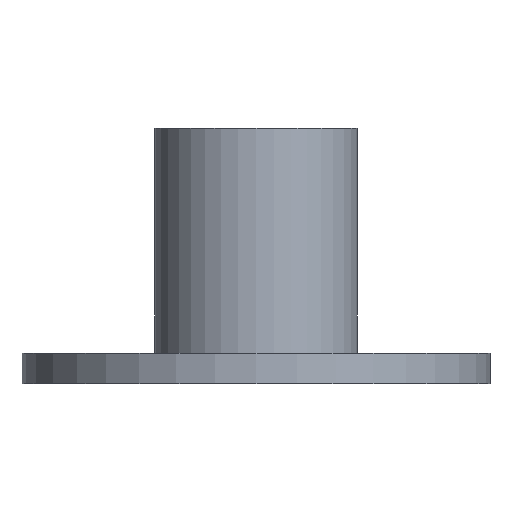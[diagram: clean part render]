
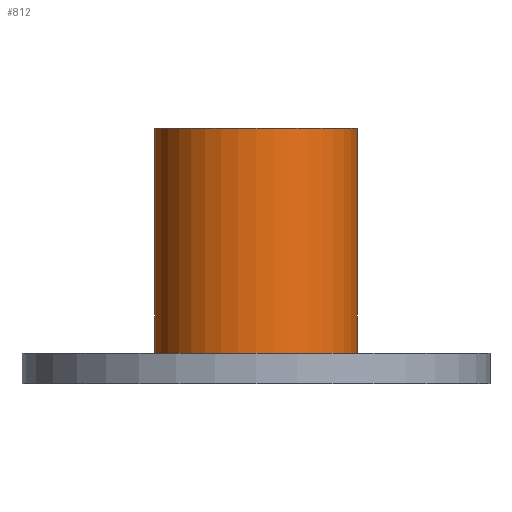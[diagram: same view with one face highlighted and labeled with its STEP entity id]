
A CAD part, front view. The second image highlights one B-rep face of the part: STEP entity #812.
In plain terms, the highlighted cylindrical face has radius 40.8 mm (diameter 81.6 mm), a full revolution.
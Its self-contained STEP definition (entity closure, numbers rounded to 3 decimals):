
#338 = PLANE('',#339);
#339 = AXIS2_PLACEMENT_3D('',#340,#341,#342);
#340 = CARTESIAN_POINT('',(0.,0.,12.3));
#341 = DIRECTION('',(0.,0.,1.));
#342 = DIRECTION('',(1.,0.,-0.));
#587 = PLANE('',#588);
#588 = AXIS2_PLACEMENT_3D('',#589,#590,#591);
#589 = CARTESIAN_POINT('',(0.,0.,103.));
#590 = DIRECTION('',(0.,0.,1.));
#591 = DIRECTION('',(1.,0.,-0.));
#748 = EDGE_CURVE('',#749,#749,#751,.T.);
#749 = VERTEX_POINT('',#750);
#750 = CARTESIAN_POINT('',(40.8,0.,12.3));
#751 = SURFACE_CURVE('',#752,(#757,#764),.PCURVE_S1.);
#752 = CIRCLE('',#753,40.8);
#753 = AXIS2_PLACEMENT_3D('',#754,#755,#756);
#754 = CARTESIAN_POINT('',(0.,0.,12.3));
#755 = DIRECTION('',(0.,0.,1.));
#756 = DIRECTION('',(1.,0.,-0.));
#757 = PCURVE('',#338,#758);
#758 = DEFINITIONAL_REPRESENTATION('',(#759),#763);
#759 = CIRCLE('',#760,40.8);
#760 = AXIS2_PLACEMENT_2D('',#761,#762);
#761 = CARTESIAN_POINT('',(0.,0.));
#762 = DIRECTION('',(1.,0.));
#763 = ( GEOMETRIC_REPRESENTATION_CONTEXT(2) 
PARAMETRIC_REPRESENTATION_CONTEXT() REPRESENTATION_CONTEXT('2D SPACE',''
  ) );
#764 = PCURVE('',#765,#770);
#765 = CYLINDRICAL_SURFACE('',#766,40.8);
#766 = AXIS2_PLACEMENT_3D('',#767,#768,#769);
#767 = CARTESIAN_POINT('',(0.,0.,12.3));
#768 = DIRECTION('',(0.,0.,1.));
#769 = DIRECTION('',(1.,0.,-0.));
#770 = DEFINITIONAL_REPRESENTATION('',(#771),#775);
#771 = LINE('',#772,#773);
#772 = CARTESIAN_POINT('',(0.,0.));
#773 = VECTOR('',#774,1.);
#774 = DIRECTION('',(1.,0.));
#775 = ( GEOMETRIC_REPRESENTATION_CONTEXT(2) 
PARAMETRIC_REPRESENTATION_CONTEXT() REPRESENTATION_CONTEXT('2D SPACE',''
  ) );
#786 = EDGE_CURVE('',#787,#787,#789,.T.);
#787 = VERTEX_POINT('',#788);
#788 = CARTESIAN_POINT('',(40.8,0.,103.));
#789 = SURFACE_CURVE('',#790,(#795,#802),.PCURVE_S1.);
#790 = CIRCLE('',#791,40.8);
#791 = AXIS2_PLACEMENT_3D('',#792,#793,#794);
#792 = CARTESIAN_POINT('',(0.,0.,103.));
#793 = DIRECTION('',(0.,0.,1.));
#794 = DIRECTION('',(1.,0.,-0.));
#795 = PCURVE('',#587,#796);
#796 = DEFINITIONAL_REPRESENTATION('',(#797),#801);
#797 = CIRCLE('',#798,40.8);
#798 = AXIS2_PLACEMENT_2D('',#799,#800);
#799 = CARTESIAN_POINT('',(0.,0.));
#800 = DIRECTION('',(1.,0.));
#801 = ( GEOMETRIC_REPRESENTATION_CONTEXT(2) 
PARAMETRIC_REPRESENTATION_CONTEXT() REPRESENTATION_CONTEXT('2D SPACE',''
  ) );
#802 = PCURVE('',#765,#803);
#803 = DEFINITIONAL_REPRESENTATION('',(#804),#808);
#804 = LINE('',#805,#806);
#805 = CARTESIAN_POINT('',(0.,90.7));
#806 = VECTOR('',#807,1.);
#807 = DIRECTION('',(1.,0.));
#808 = ( GEOMETRIC_REPRESENTATION_CONTEXT(2) 
PARAMETRIC_REPRESENTATION_CONTEXT() REPRESENTATION_CONTEXT('2D SPACE',''
  ) );
#812 = ADVANCED_FACE('',(#813),#765,.T.);
#813 = FACE_BOUND('',#814,.T.);
#814 = EDGE_LOOP('',(#815,#816,#837,#838));
#815 = ORIENTED_EDGE('',*,*,#748,.T.);
#816 = ORIENTED_EDGE('',*,*,#817,.T.);
#817 = EDGE_CURVE('',#749,#787,#818,.T.);
#818 = SEAM_CURVE('',#819,(#823,#830),.PCURVE_S1.);
#819 = LINE('',#820,#821);
#820 = CARTESIAN_POINT('',(40.8,0.,12.3));
#821 = VECTOR('',#822,1.);
#822 = DIRECTION('',(0.,0.,1.));
#823 = PCURVE('',#765,#824);
#824 = DEFINITIONAL_REPRESENTATION('',(#825),#829);
#825 = LINE('',#826,#827);
#826 = CARTESIAN_POINT('',(0.,0.));
#827 = VECTOR('',#828,1.);
#828 = DIRECTION('',(0.,1.));
#829 = ( GEOMETRIC_REPRESENTATION_CONTEXT(2) 
PARAMETRIC_REPRESENTATION_CONTEXT() REPRESENTATION_CONTEXT('2D SPACE',''
  ) );
#830 = PCURVE('',#765,#831);
#831 = DEFINITIONAL_REPRESENTATION('',(#832),#836);
#832 = LINE('',#833,#834);
#833 = CARTESIAN_POINT('',(6.283,0.));
#834 = VECTOR('',#835,1.);
#835 = DIRECTION('',(0.,1.));
#836 = ( GEOMETRIC_REPRESENTATION_CONTEXT(2) 
PARAMETRIC_REPRESENTATION_CONTEXT() REPRESENTATION_CONTEXT('2D SPACE',''
  ) );
#837 = ORIENTED_EDGE('',*,*,#786,.F.);
#838 = ORIENTED_EDGE('',*,*,#817,.F.);
